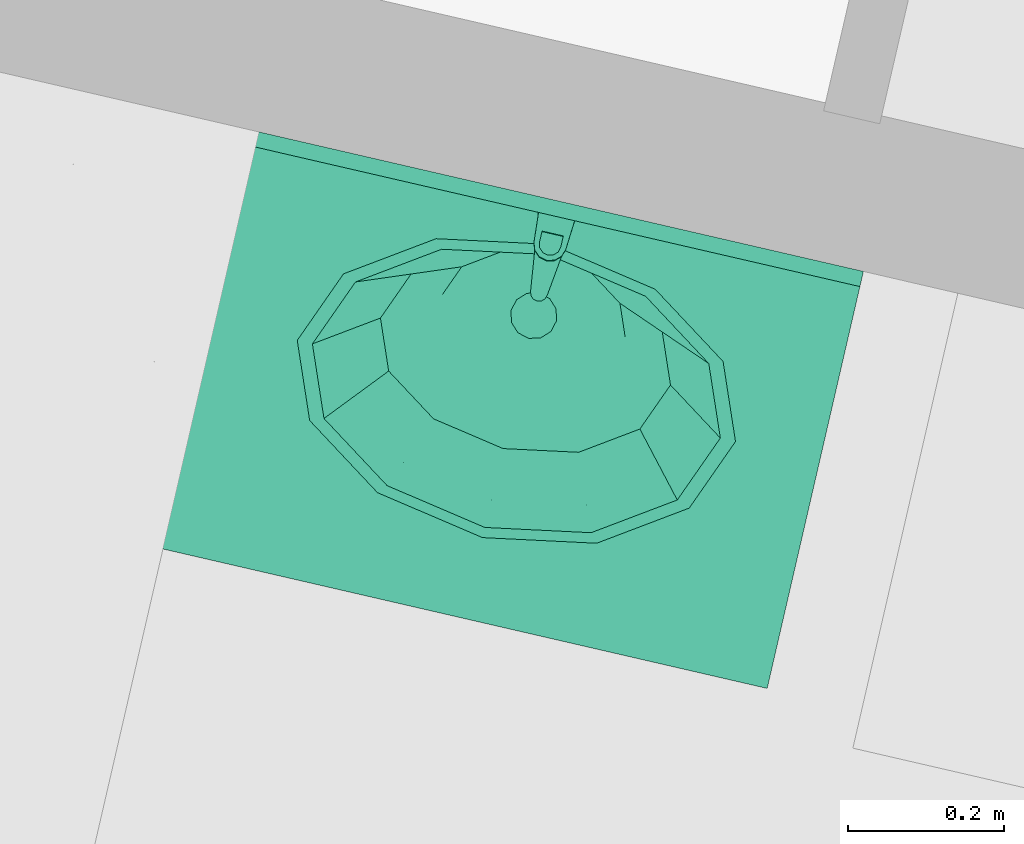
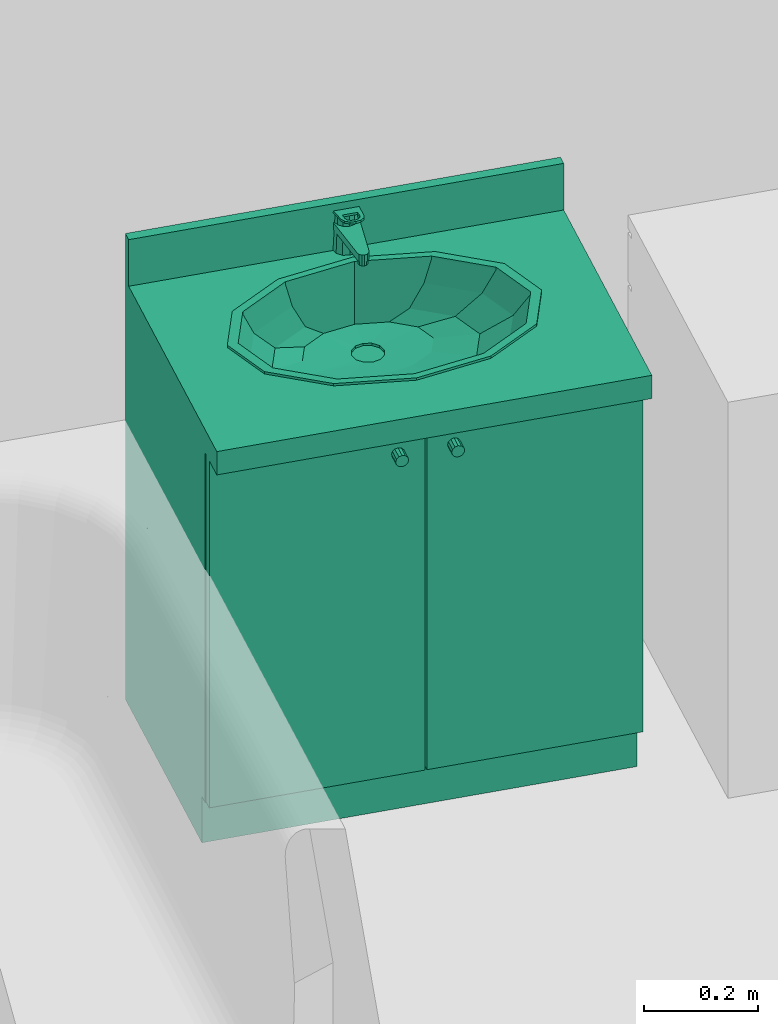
# One storey, part 82 of 90: 1 flow terminal.
"""IFC2X3 building model written with IfcOpenShell, lengths in metres."""

from ifc_helpers import new_model, entity, si_unit, converted_unit, derived_unit, money_unit, direction, frame, origin_with_axes, place, context, subcontext, project, spatial, open_shell, faceted_brep, surface_model, source, transform, mapped, type_object, element, save


model = new_model("IFC2X3")

# Units and contexts
model_context = context("Model", 3, precision=1e-05, world=origin_with_axes(), true_north=direction((0.0, 1.0)))
body_context = subcontext(model_context, "Body", "Model", "MODEL_VIEW")
ifc_project = project(units=[si_unit("LENGTHUNIT", "METRE"), si_unit("AREAUNIT", "SQUARE_METRE"), si_unit("VOLUMEUNIT", "CUBIC_METRE"), converted_unit("PLANEANGLEUNIT", "DEGREE", entity("IfcPlaneAngleMeasure", 0.0174532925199), si_unit("PLANEANGLEUNIT", "RADIAN"), dimensions=[0, 0, 0, 0, 0, 0, 0]), si_unit("SOLIDANGLEUNIT", "STERADIAN"), money_unit("EUR"), converted_unit("TIMEUNIT", "Year", entity("IfcTimeMeasure", 31556926.0), si_unit("TIMEUNIT", "SECOND"), dimensions=[0, 0, 1, 0, 0, 0, 0]), si_unit("MASSUNIT", "GRAM", prefix="KILO"), si_unit("THERMODYNAMICTEMPERATUREUNIT", "DEGREE_CELSIUS"), si_unit("LUMINOUSINTENSITYUNIT", "LUMEN"), si_unit("ENERGYUNIT", "JOULE", prefix="MEGA"), derived_unit("THERMALCONDUCTANCEUNIT", [(si_unit("POWERUNIT", "WATT"), 1), (si_unit("LENGTHUNIT", "METRE"), -1), (si_unit("THERMODYNAMICTEMPERATUREUNIT", "KELVIN"), -1)]), derived_unit("SPECIFICHEATCAPACITYUNIT", [(si_unit("ENERGYUNIT", "JOULE"), 1), (si_unit("MASSUNIT", "GRAM", prefix="KILO"), -1), (si_unit("THERMODYNAMICTEMPERATUREUNIT", "KELVIN"), -1)]), derived_unit("MASSDENSITYUNIT", [(si_unit("MASSUNIT", "GRAM", prefix="KILO"), 1), (si_unit("VOLUMEUNIT", "CUBIC_METRE"), -1)])], contexts=[model_context])

# Site, building, storey
site_placement = place(None, origin_with_axes())
site = spatial("IfcSite", under=ifc_project, at=site_placement, Name="Site", CompositionType="ELEMENT")
building_placement = place(site_placement, origin_with_axes())
building = spatial("IfcBuilding", under=site, at=building_placement, Name="Bâtiment", CompositionType="ELEMENT")
storey_placement = place(building_placement, frame((0.0, 0.0, 2.72), z_axis=(0.0, 0.0, 1.0), x_axis=(1.0, 0.0, 0.0)))
storey = spatial("IfcBuildingStorey", under=building, at=storey_placement, Name="R+1", CompositionType="ELEMENT", Elevation=2.72)

# Flow terminal
sanitary_terminal_type = type_object("IfcSanitaryTerminalType", Name="Lavabo sur meuble 23", PredefinedType="NOTDEFINED")
shared_shape = source(origin_with_axes(), body_context, "Body", "SurfaceModel", [
    faceted_brep([(0.0, 0.09, 0.0), (0.0, 0.09, 0.1), (-0.8, 0.09, 0.1), (-0.8, 0.09, 0.0), (0.0, 0.55, 0.0), (0.0, 0.55, 0.1), (-0.8, 0.55, 0.1), (-0.8, 0.55, 0.0)], [[[0, 1, 2, 3]], [[4, 5, 1, 0]], [[1, 5, 6, 2]], [[3, 2, 6, 7]], [[0, 3, 7, 4]], [[7, 6, 5, 4]]]),
    faceted_brep([(0.0, 0.07, 0.1), (0.0, 0.07, 0.12), (-0.02, 0.07, 0.12), (-0.02, 0.07, 0.1), (0.0, 0.55, 0.1), (0.0, 0.55, 0.12), (-0.02, 0.55, 0.12), (-0.78, 0.55, 0.12), (-0.8, 0.55, 0.12), (-0.8, 0.07, 0.12), (-0.78, 0.07, 0.12), (-0.78, 0.07, 0.1), (-0.8, 0.07, 0.1), (-0.8, 0.55, 0.1), (-0.78, 0.55, 0.1), (-0.02, 0.55, 0.1)], [[[0, 1, 2, 3]], [[4, 5, 1, 0]], [[1, 5, 6, 7, 8, 9, 10, 2]], [[3, 2, 10, 11]], [[0, 3, 11, 12, 13, 14, 15, 4]], [[15, 6, 5, 4]], [[14, 7, 6, 15]], [[13, 8, 7, 14]], [[12, 9, 8, 13]], [[11, 10, 9, 12]]]),
    faceted_brep([(0.0, 0.07, 0.12), (0.0, 0.07, 0.85), (-0.02, 0.07, 0.85), (-0.02, 0.07, 0.12), (0.0, 0.55, 0.12), (0.0, 0.55, 0.85), (-0.8, 0.55, 0.85), (-0.8, 0.07, 0.85), (-0.78, 0.07, 0.85), (-0.78, 0.53, 0.85), (-0.02, 0.53, 0.85), (-0.02, 0.53, 0.12), (-0.78, 0.53, 0.12), (-0.78, 0.07, 0.12), (-0.8, 0.07, 0.12), (-0.8, 0.55, 0.12)], [[[0, 1, 2, 3]], [[4, 5, 1, 0]], [[1, 5, 6, 7, 8, 9, 10, 2]], [[3, 2, 10, 11]], [[0, 3, 11, 12, 13, 14, 15, 4]], [[15, 6, 5, 4]], [[14, 7, 6, 15]], [[13, 8, 7, 14]], [[12, 9, 8, 13]], [[11, 10, 9, 12]]]),
    faceted_brep([(-0.78, 0.07, 0.323333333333), (-0.78, 0.07, 0.343333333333), (-0.78, 0.53, 0.343333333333), (-0.78, 0.53, 0.323333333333), (-0.02, 0.07, 0.323333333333), (-0.02, 0.07, 0.343333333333), (-0.02, 0.53, 0.343333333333), (-0.02, 0.53, 0.323333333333)], [[[0, 1, 2, 3]], [[4, 5, 1, 0]], [[1, 5, 6, 2]], [[3, 2, 6, 7]], [[0, 3, 7, 4]], [[7, 6, 5, 4]]]),
    faceted_brep([(-0.78, 0.07, 0.566666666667), (-0.78, 0.07, 0.586666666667), (-0.78, 0.53, 0.586666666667), (-0.78, 0.53, 0.566666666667), (-0.02, 0.07, 0.566666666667), (-0.02, 0.07, 0.586666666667), (-0.02, 0.53, 0.586666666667), (-0.02, 0.53, 0.566666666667)], [[[0, 1, 2, 3]], [[4, 5, 1, 0]], [[1, 5, 6, 2]], [[3, 2, 6, 7]], [[0, 3, 7, 4]], [[7, 6, 5, 4]]]),
    faceted_brep([(0.0, 0.55, 0.85), (0.0, 0.0, 0.85), (-0.8, 0.0, 0.85), (-0.8, 0.55, 0.85), (-0.535, 0.144115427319, 0.85), (-0.4, 0.12, 0.85), (-0.265, 0.144115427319, 0.85), (-0.166173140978, 0.21, 0.85), (-0.13, 0.3, 0.85), (-0.166173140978, 0.39, 0.85), (-0.265, 0.455884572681, 0.85), (-0.4, 0.48, 0.85), (-0.535, 0.455884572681, 0.85), (-0.633826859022, 0.39, 0.85), (-0.67, 0.3, 0.85), (-0.633826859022, 0.21, 0.85), (0.0, 0.55, 0.9), (0.0, 0.0, 0.9), (-0.8, 0.0, 0.9), (-0.8, 0.55, 0.9), (-0.4, 0.12, 0.9), (-0.535, 0.144115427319, 0.9), (-0.265, 0.144115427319, 0.9), (-0.166173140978, 0.21, 0.9), (-0.13, 0.3, 0.9), (-0.166173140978, 0.39, 0.9), (-0.265, 0.455884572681, 0.9), (-0.4, 0.48, 0.9), (-0.535, 0.455884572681, 0.9), (-0.633826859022, 0.39, 0.9), (-0.67, 0.3, 0.9), (-0.633826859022, 0.21, 0.9)], [[[0, 1, 2, 3], [4, 5, 6, 7, 8, 9, 10, 11, 12, 13, 14, 15]], [[1, 0, 16, 17]], [[2, 1, 17, 18]], [[3, 2, 18, 19]], [[0, 3, 19, 16]], [[20, 5, 4, 21]], [[22, 6, 5, 20]], [[23, 7, 6, 22]], [[24, 8, 7, 23]], [[25, 9, 8, 24]], [[26, 10, 9, 25]], [[27, 11, 10, 26]], [[28, 12, 11, 27]], [[29, 13, 12, 28]], [[30, 14, 13, 29]], [[31, 15, 14, 30]], [[21, 4, 15, 31]], [[18, 17, 16, 19], [28, 27, 26, 25, 24, 23, 22, 20, 21, 31, 30, 29]]]),
    faceted_brep([(0.0, 0.53, 0.9), (0.0, 0.53, 1.0), (-0.8, 0.53, 1.0), (-0.8, 0.53, 0.9), (0.0, 0.55, 0.9), (0.0, 0.55, 1.0), (-0.8, 0.55, 1.0), (-0.8, 0.55, 0.9)], [[[0, 1, 2, 3]], [[4, 5, 1, 0]], [[1, 5, 6, 2]], [[3, 2, 6, 7]], [[0, 3, 7, 4]], [[7, 6, 5, 4]]]),
    faceted_brep([(-0.689, 0.3, 0.905), (-0.650281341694, 0.396691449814, 0.905), (-0.650281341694, 0.396691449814, 0.9), (-0.689, 0.3, 0.9), (-0.650281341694, 0.203308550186, 0.905), (-0.5445, 0.132525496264, 0.905), (-0.4, 0.106617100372, 0.905), (-0.2555, 0.132525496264, 0.905), (-0.149718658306, 0.203308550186, 0.905), (-0.111, 0.3, 0.905), (-0.149718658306, 0.396691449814, 0.905), (-0.2555, 0.467474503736, 0.905), (-0.4, 0.493382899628, 0.905), (-0.5445, 0.467474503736, 0.905), (-0.669, 0.3, 0.905), (-0.632960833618, 0.39, 0.905), (-0.5345, 0.455884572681, 0.905), (-0.4, 0.48, 0.905), (-0.2655, 0.455884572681, 0.905), (-0.167039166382, 0.39, 0.905), (-0.131, 0.3, 0.905), (-0.167039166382, 0.21, 0.905), (-0.2655, 0.144115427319, 0.905), (-0.4, 0.12, 0.905), (-0.5345, 0.144115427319, 0.905), (-0.632960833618, 0.21, 0.905), (-0.5445, 0.467474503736, 0.9), (-0.4, 0.493382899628, 0.9), (-0.2555, 0.467474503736, 0.9), (-0.149718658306, 0.396691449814, 0.9), (-0.111, 0.3, 0.9), (-0.149718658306, 0.203308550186, 0.9), (-0.2555, 0.132525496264, 0.9), (-0.4, 0.106617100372, 0.9), (-0.5445, 0.132525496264, 0.9), (-0.650281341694, 0.203308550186, 0.9), (-0.669, 0.3, 0.9), (-0.632960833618, 0.21, 0.9), (-0.5345, 0.144115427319, 0.9), (-0.4, 0.12, 0.9), (-0.2655, 0.144115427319, 0.9), (-0.167039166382, 0.21, 0.9), (-0.131, 0.3, 0.9), (-0.167039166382, 0.39, 0.9), (-0.2655, 0.455884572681, 0.9), (-0.4, 0.48, 0.9), (-0.5345, 0.455884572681, 0.9), (-0.632960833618, 0.39, 0.9)], [[[0, 1, 2, 3]], [[0, 4, 5, 6, 7, 8, 9, 10, 11, 12, 13, 1], [14, 15, 16, 17, 18, 19, 20, 21, 22, 23, 24, 25]], [[1, 13, 26, 2]], [[3, 2, 26, 27, 28, 29, 30, 31, 32, 33, 34, 35], [36, 37, 38, 39, 40, 41, 42, 43, 44, 45, 46, 47]], [[4, 0, 3, 35]], [[5, 4, 35, 34]], [[6, 5, 34, 33]], [[7, 6, 33, 32]], [[8, 7, 32, 31]], [[9, 8, 31, 30]], [[10, 9, 30, 29]], [[11, 10, 29, 28]], [[12, 11, 28, 27]], [[13, 12, 27, 26]], [[15, 14, 36, 47]], [[16, 15, 47, 46]], [[17, 16, 46, 45]], [[18, 17, 45, 44]], [[19, 18, 44, 43]], [[20, 19, 43, 42]], [[21, 20, 42, 41]], [[22, 21, 41, 40]], [[23, 22, 40, 39]], [[24, 23, 39, 38]], [[25, 24, 38, 37]], [[14, 25, 37, 36]]]),
    surface_model("IfcShellBasedSurfaceModel", [(-0.4, 0.48, 0.9), (-0.5345, 0.455884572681, 0.9), (-0.52105, 0.458296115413, 0.848), (-0.4, 0.48, 0.848), (-0.632960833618, 0.39, 0.9), (-0.609664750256, 0.399, 0.848), (-0.2655, 0.455884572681, 0.9), (-0.27895, 0.458296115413, 0.848), (-0.669, 0.3, 0.9), (-0.6421, 0.318, 0.848), (-0.167039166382, 0.39, 0.9), (-0.190335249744, 0.399, 0.848), (-0.632960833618, 0.21, 0.9), (-0.609664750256, 0.237, 0.848), (-0.131, 0.3, 0.9), (-0.1579, 0.318, 0.848), (-0.5345, 0.144115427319, 0.9), (-0.52105, 0.177703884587, 0.848), (-0.167039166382, 0.21, 0.9), (-0.190335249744, 0.237, 0.848), (-0.4, 0.12, 0.9), (-0.4, 0.156, 0.848), (-0.2655, 0.144115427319, 0.9), (-0.27895, 0.177703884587, 0.848)], [open_shell([[[0, 1, 2, 3]], [[1, 4, 5, 2]], [[6, 0, 3, 7]], [[4, 8, 9, 5]], [[10, 6, 7, 11]], [[8, 12, 13, 9]], [[14, 10, 11, 15]], [[12, 16, 17, 13]], [[18, 14, 15, 19]], [[16, 20, 21, 17]], [[22, 18, 19, 23]], [[20, 22, 23, 21]]])]),
    surface_model("IfcShellBasedSurfaceModel", [(-0.4, 0.48, 0.848), (-0.52105, 0.458296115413, 0.848), (-0.4956295, 0.462853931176, 0.796), (-0.4, 0.48, 0.796), (-0.609664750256, 0.399, 0.848), (-0.565635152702, 0.41601, 0.796), (-0.27895, 0.458296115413, 0.848), (-0.3043705, 0.462853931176, 0.796), (-0.6421, 0.318, 0.848), (-0.591259, 0.35202, 0.796), (-0.190335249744, 0.399, 0.848), (-0.234364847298, 0.41601, 0.796), (-0.609664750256, 0.237, 0.848), (-0.565635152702, 0.28803, 0.796), (-0.1579, 0.318, 0.848), (-0.208741, 0.35202, 0.796), (-0.52105, 0.177703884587, 0.848), (-0.4956295, 0.241186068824, 0.796), (-0.190335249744, 0.237, 0.848), (-0.234364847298, 0.28803, 0.796), (-0.4, 0.156, 0.848), (-0.4, 0.22404, 0.796), (-0.27895, 0.177703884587, 0.848), (-0.3043705, 0.241186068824, 0.796)], [open_shell([[[0, 1, 2, 3]], [[1, 4, 5, 2]], [[6, 0, 3, 7]], [[4, 8, 9, 5]], [[10, 6, 7, 11]], [[8, 12, 13, 9]], [[14, 10, 11, 15]], [[12, 16, 17, 13]], [[18, 14, 15, 19]], [[16, 20, 21, 17]], [[22, 18, 19, 23]], [[20, 22, 23, 21]]])]),
    surface_model("IfcShellBasedSurfaceModel", [(-0.4, 0.48, 0.796), (-0.4956295, 0.462853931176, 0.796), (-0.460246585, 0.469197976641, 0.77), (-0.4, 0.48, 0.77), (-0.565635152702, 0.41601, 0.796), (-0.504350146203, 0.4396863, 0.77), (-0.3043705, 0.462853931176, 0.796), (-0.339753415, 0.469197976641, 0.77), (-0.591259, 0.35202, 0.796), (-0.52049317, 0.3993726, 0.77), (-0.234364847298, 0.41601, 0.796), (-0.295649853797, 0.4396863, 0.77), (-0.565635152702, 0.28803, 0.796), (-0.504350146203, 0.3590589, 0.77), (-0.208741, 0.35202, 0.796), (-0.27950683, 0.3993726, 0.77), (-0.4956295, 0.241186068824, 0.796), (-0.460246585, 0.329547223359, 0.77), (-0.234364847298, 0.28803, 0.796), (-0.295649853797, 0.3590589, 0.77), (-0.4, 0.22404, 0.796), (-0.4, 0.3187452, 0.77), (-0.3043705, 0.241186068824, 0.796), (-0.339753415, 0.329547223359, 0.77)], [open_shell([[[0, 1, 2, 3]], [[1, 4, 5, 2]], [[6, 0, 3, 7]], [[4, 8, 9, 5]], [[10, 6, 7, 11]], [[8, 12, 13, 9]], [[14, 10, 11, 15]], [[12, 16, 17, 13]], [[18, 14, 15, 19]], [[16, 20, 21, 17]], [[22, 18, 19, 23]], [[20, 22, 23, 21]]])]),
    surface_model("IfcShellBasedSurfaceModel", [(-0.4, 0.48, 0.77), (-0.460246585, 0.469197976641, 0.77), (-0.415, 0.425353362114, 0.763), (-0.425980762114, 0.4143726, 0.763), (-0.4, 0.4293726, 0.763), (-0.504350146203, 0.4396863, 0.77), (-0.339753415, 0.469197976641, 0.77), (-0.43, 0.3993726, 0.763), (-0.385, 0.425353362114, 0.763), (-0.52049317, 0.3993726, 0.77), (-0.295649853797, 0.4396863, 0.77), (-0.425980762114, 0.3843726, 0.763), (-0.374019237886, 0.4143726, 0.763), (-0.504350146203, 0.3590589, 0.77), (-0.27950683, 0.3993726, 0.77), (-0.415, 0.373391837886, 0.763), (-0.37, 0.3993726, 0.763), (-0.460246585, 0.329547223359, 0.77), (-0.295649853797, 0.3590589, 0.77), (-0.4, 0.3693726, 0.763), (-0.374019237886, 0.3843726, 0.763), (-0.4, 0.3187452, 0.77), (-0.339753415, 0.329547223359, 0.77), (-0.385, 0.373391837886, 0.763)], [open_shell([[[0, 1, 2]], [[1, 3, 2]], [[0, 2, 4]], [[1, 5, 3]], [[6, 0, 4]], [[5, 7, 3]], [[6, 4, 8]], [[5, 9, 7]], [[10, 6, 8]], [[9, 11, 7]], [[10, 8, 12]], [[9, 13, 11]], [[14, 10, 12]], [[13, 15, 11]], [[14, 12, 16]], [[13, 17, 15]], [[18, 14, 16]], [[17, 19, 15]], [[18, 16, 20]], [[17, 21, 19]], [[22, 18, 20]], [[21, 23, 19]], [[22, 20, 23]], [[21, 22, 23]]])]),
    surface_model("IfcShellBasedSurfaceModel", [(-0.43, 0.3993726, 0.763), (-0.425980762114, 0.4143726, 0.763), (-0.425980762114, 0.4143726, 0.758), (-0.43, 0.3993726, 0.758), (-0.415, 0.425353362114, 0.763), (-0.415, 0.425353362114, 0.758), (-0.4, 0.4293726, 0.758), (-0.385, 0.425353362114, 0.758), (-0.374019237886, 0.4143726, 0.758), (-0.37, 0.3993726, 0.758), (-0.374019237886, 0.3843726, 0.758), (-0.385, 0.373391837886, 0.758), (-0.4, 0.3693726, 0.758), (-0.415, 0.373391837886, 0.758), (-0.425980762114, 0.3843726, 0.758), (-0.425980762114, 0.3843726, 0.763), (-0.4, 0.4293726, 0.763), (-0.385, 0.425353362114, 0.763), (-0.374019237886, 0.4143726, 0.763), (-0.37, 0.3993726, 0.763), (-0.374019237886, 0.3843726, 0.763), (-0.385, 0.373391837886, 0.763), (-0.4, 0.3693726, 0.763), (-0.415, 0.373391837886, 0.763)], [open_shell([[[0, 1, 2, 3]], [[1, 4, 5, 2]], [[3, 2, 5, 6, 7, 8, 9, 10, 11, 12, 13, 14]], [[15, 0, 3, 14]], [[4, 16, 6, 5]], [[16, 17, 7, 6]], [[17, 18, 8, 7]], [[18, 19, 9, 8]], [[19, 20, 10, 9]], [[20, 21, 11, 10]], [[21, 22, 12, 11]], [[22, 23, 13, 12]], [[23, 15, 14, 13]]])]),
    faceted_brep([(-0.4125, 0.554150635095, 0.9), (-0.410587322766, 0.550837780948, 0.976507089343), (-0.4, 0.553701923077, 0.975961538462), (-0.4, 0.5575, 0.9), (-0.421650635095, 0.545, 0.9), (-0.418273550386, 0.543050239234, 0.977990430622), (-0.421, 0.5325, 0.98), (-0.418100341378, 0.522049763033, 0.981990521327), (-0.410414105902, 0.514462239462, 0.983435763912), (-0.4, 0.511698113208, 0.983962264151), (-0.389585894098, 0.514462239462, 0.983435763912), (-0.381899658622, 0.522049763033, 0.981990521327), (-0.379, 0.5325, 0.98), (-0.381726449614, 0.543050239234, 0.977990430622), (-0.389412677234, 0.550837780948, 0.976507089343), (-0.3875, 0.554150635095, 0.9), (-0.378349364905, 0.545, 0.9), (-0.375, 0.5325, 0.9), (-0.378349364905, 0.52, 0.9), (-0.3875, 0.510849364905, 0.9), (-0.4, 0.5075, 0.9), (-0.4125, 0.510849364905, 0.9), (-0.421650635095, 0.52, 0.9), (-0.425, 0.5325, 0.9)], [[[0, 1, 2, 3]], [[4, 5, 1, 0]], [[1, 5, 6, 7, 8, 9, 10, 11, 12, 13, 14, 2]], [[3, 2, 14, 15]], [[0, 3, 15, 16, 17, 18, 19, 20, 21, 22, 23, 4]], [[23, 6, 5, 4]], [[22, 7, 6, 23]], [[21, 8, 7, 22]], [[20, 9, 8, 21]], [[19, 10, 9, 20]], [[18, 11, 10, 19]], [[17, 12, 11, 18]], [[16, 13, 12, 17]], [[15, 14, 13, 16]]]),
    faceted_brep([(-0.409, 0.4295, 0.935), (-0.409, 0.4295, 0.945), (-0.407794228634, 0.434, 0.945), (-0.407794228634, 0.434, 0.935), (-0.407794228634, 0.425, 0.935), (-0.407794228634, 0.425, 0.945), (-0.4045, 0.421705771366, 0.945), (-0.4, 0.4205, 0.945), (-0.3955, 0.421705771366, 0.945), (-0.392205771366, 0.425, 0.945), (-0.391, 0.4295, 0.945), (-0.392205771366, 0.434, 0.945), (-0.3955, 0.437294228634, 0.945), (-0.4, 0.4385, 0.945), (-0.4045, 0.437294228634, 0.945), (-0.4045, 0.437294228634, 0.935), (-0.4, 0.4385, 0.935), (-0.3955, 0.437294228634, 0.935), (-0.392205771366, 0.434, 0.935), (-0.391, 0.4295, 0.935), (-0.392205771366, 0.425, 0.935), (-0.3955, 0.421705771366, 0.935), (-0.4, 0.4205, 0.935), (-0.4045, 0.421705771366, 0.935)], [[[0, 1, 2, 3]], [[4, 5, 1, 0]], [[1, 5, 6, 7, 8, 9, 10, 11, 12, 13, 14, 2]], [[3, 2, 14, 15]], [[0, 3, 15, 16, 17, 18, 19, 20, 21, 22, 23, 4]], [[23, 6, 5, 4]], [[22, 7, 6, 23]], [[21, 8, 7, 22]], [[20, 9, 8, 21]], [[19, 10, 9, 20]], [[18, 11, 10, 19]], [[17, 12, 11, 18]], [[16, 13, 12, 17]], [[15, 14, 13, 16]]]),
    faceted_brep([(-0.387128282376, 0.552756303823, 0.96), (-0.40000000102, 0.556499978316, 0.96), (-0.412871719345, 0.552756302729, 0.96), (-0.421727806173, 0.542693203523, 0.96), (-0.423805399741, 0.529450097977, 0.96), (-0.410912, 0.4281117, 0.96), (-0.409028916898, 0.423216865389, 0.96), (-0.405093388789, 0.419750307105, 0.96), (-0.400000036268, 0.41850003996, 0.96), (-0.394906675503, 0.419750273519, 0.96), (-0.390971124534, 0.423216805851, 0.96), (-0.389088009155, 0.428111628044, 0.96), (-0.3761946, 0.5294501, 0.96), (-0.378272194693, 0.54269320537, 0.96), (-0.411, 0.551552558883, 0.96), (-0.4, 0.5545, 0.96), (-0.389, 0.551552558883, 0.96), (-0.380947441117, 0.5435, 0.96), (-0.378, 0.5325, 0.96), (-0.380947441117, 0.5215, 0.96), (-0.389, 0.513447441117, 0.96), (-0.4, 0.5105, 0.96), (-0.411, 0.513447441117, 0.96), (-0.419052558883, 0.5215, 0.96), (-0.422, 0.5325, 0.96), (-0.419052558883, 0.5435, 0.96), (-0.387128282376, 0.552756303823, 0.945), (-0.40000000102, 0.556499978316, 0.945), (-0.412871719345, 0.552756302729, 0.945), (-0.421727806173, 0.542693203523, 0.945), (-0.423805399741, 0.529450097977, 0.945), (-0.410912, 0.4281117, 0.945), (-0.409028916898, 0.423216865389, 0.945), (-0.405093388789, 0.419750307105, 0.945), (-0.400000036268, 0.41850003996, 0.945), (-0.394906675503, 0.419750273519, 0.945), (-0.390971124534, 0.423216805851, 0.945), (-0.389088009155, 0.428111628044, 0.945), (-0.3761946, 0.5294501, 0.945), (-0.378272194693, 0.54269320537, 0.945), (-0.4, 0.55525, 0.945), (-0.411375, 0.552202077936, 0.945), (-0.388625, 0.552202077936, 0.945), (-0.380297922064, 0.543875, 0.945), (-0.37725, 0.5325, 0.945), (-0.380297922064, 0.521125, 0.945), (-0.388625, 0.512797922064, 0.945), (-0.4, 0.50975, 0.945), (-0.411375, 0.512797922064, 0.945), (-0.419702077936, 0.521125, 0.945), (-0.42275, 0.5325, 0.945), (-0.419702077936, 0.543875, 0.945)], [[[0, 1, 2, 3, 4, 5, 6, 7, 8, 9, 10, 11, 12, 13], [14, 15, 16, 17, 18, 19, 20, 21, 22, 23, 24, 25]], [[26, 27, 1, 0]], [[27, 28, 2, 1]], [[28, 29, 3, 2]], [[29, 30, 4, 3]], [[30, 31, 5, 4]], [[31, 32, 6, 5]], [[32, 33, 7, 6]], [[33, 34, 8, 7]], [[34, 35, 9, 8]], [[35, 36, 10, 9]], [[36, 37, 11, 10]], [[37, 38, 12, 11]], [[38, 39, 13, 12]], [[39, 26, 0, 13]], [[40, 15, 14, 41]], [[42, 16, 15, 40]], [[16, 42, 43, 17]], [[17, 43, 44, 18]], [[18, 44, 45, 19]], [[19, 45, 46, 20]], [[20, 46, 47, 21]], [[48, 22, 21, 47]], [[49, 23, 22, 48]], [[50, 24, 23, 49]], [[51, 25, 24, 50]], [[41, 14, 25, 51]], [[34, 33, 32, 31, 30, 29, 28, 27, 26, 39, 38, 37, 36, 35], [48, 47, 46, 45, 44, 43, 42, 40, 41, 51, 50, 49]]]),
    faceted_brep([(-0.423893, 0.53080743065, 0.980322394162), (-0.423893, 0.531555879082, 0.984251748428), (-0.421296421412, 0.544023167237, 0.981877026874), (-0.421296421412, 0.543274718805, 0.977947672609), (-0.420945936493, 0.490663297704, 0.987968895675), (-0.420945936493, 0.491411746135, 0.991898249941), (-0.417663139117, 0.48173408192, 0.993741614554), (-0.410061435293, 0.47478470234, 0.995065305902), (-0.399999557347, 0.472262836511, 0.995545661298), (-0.389937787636, 0.474785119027, 0.995065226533), (-0.382336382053, 0.481734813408, 0.993741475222), (-0.379054, 0.491412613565, 0.991898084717), (-0.376106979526, 0.531556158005, 0.984251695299), (-0.378703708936, 0.544023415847, 0.98187697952), (-0.38752831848, 0.553339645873, 0.980102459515), (-0.400000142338, 0.556780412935, 0.979447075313), (-0.41247192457, 0.553339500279, 0.980102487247), (-0.414, 0.507707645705, 0.988794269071), (-0.386, 0.507707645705, 0.988794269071), (-0.386, 0.492892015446, 0.991616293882), (-0.387875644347, 0.486015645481, 0.992926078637), (-0.393, 0.480981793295, 0.993884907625), (-0.4, 0.479139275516, 0.994235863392), (-0.407, 0.480981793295, 0.993884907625), (-0.412124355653, 0.486015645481, 0.992926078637), (-0.414, 0.492892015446, 0.991616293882), (-0.41247192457, 0.552591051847, 0.976173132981), (-0.400000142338, 0.556031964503, 0.975517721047), (-0.38752831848, 0.552591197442, 0.976173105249), (-0.378703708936, 0.543274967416, 0.977947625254), (-0.376106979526, 0.530807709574, 0.980322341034), (-0.379054, 0.490664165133, 0.987968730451), (-0.382336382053, 0.480986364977, 0.989812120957), (-0.389937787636, 0.474036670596, 0.991135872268), (-0.399999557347, 0.47151438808, 0.991616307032), (-0.410061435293, 0.474036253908, 0.991135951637), (-0.417663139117, 0.480985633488, 0.989812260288), (-0.414, 0.506959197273, 0.984864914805), (-0.414, 0.492143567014, 0.987686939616), (-0.412124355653, 0.485267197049, 0.988996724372), (-0.407, 0.480233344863, 0.989955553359), (-0.4, 0.478390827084, 0.990306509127), (-0.393, 0.480233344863, 0.989955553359), (-0.387875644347, 0.485267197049, 0.988996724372), (-0.386, 0.492143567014, 0.987686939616), (-0.386, 0.506959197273, 0.984864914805)], [[[0, 1, 2, 3]], [[4, 5, 1, 0]], [[1, 5, 6, 7, 8, 9, 10, 11, 12, 13, 14, 15, 16, 2], [17, 18, 19, 20, 21, 22, 23, 24, 25]], [[3, 2, 16, 26]], [[0, 3, 26, 27, 28, 29, 30, 31, 32, 33, 34, 35, 36, 4], [37, 38, 39, 40, 41, 42, 43, 44, 45]], [[36, 6, 5, 4]], [[35, 7, 6, 36]], [[34, 8, 7, 35]], [[33, 9, 8, 34]], [[32, 10, 9, 33]], [[31, 11, 10, 32]], [[30, 12, 11, 31]], [[29, 13, 12, 30]], [[28, 14, 13, 29]], [[27, 15, 14, 28]], [[26, 16, 15, 27]], [[45, 18, 17, 37]], [[44, 19, 18, 45]], [[43, 20, 19, 44]], [[42, 21, 20, 43]], [[41, 22, 21, 42]], [[40, 23, 22, 41]], [[39, 24, 23, 40]], [[38, 25, 24, 39]], [[37, 17, 25, 38]]]),
    faceted_brep([(-0.0015, 0.07, 0.1015), (-0.0015, 0.05, 0.1015), (-0.3985, 0.05, 0.1015), (-0.3985, 0.07, 0.1015), (-0.0015, 0.07, 0.8485), (-0.0015, 0.05, 0.8485), (-0.3985, 0.05, 0.8485), (-0.3985, 0.07, 0.8485)], [[[0, 1, 2, 3]], [[4, 5, 1, 0]], [[1, 5, 6, 2]], [[3, 2, 6, 7]], [[0, 3, 7, 4]], [[7, 6, 5, 4]]]),
    faceted_brep([(-0.358892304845, 0.05, 0.7855), (-0.3605, 0.05, 0.7915), (-0.358892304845, 0.05, 0.7975), (-0.3545, 0.05, 0.801892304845), (-0.3485, 0.05, 0.8035), (-0.3425, 0.05, 0.801892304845), (-0.338107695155, 0.05, 0.7975), (-0.3365, 0.05, 0.7915), (-0.338107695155, 0.05, 0.7855), (-0.3425, 0.05, 0.781107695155), (-0.3485, 0.05, 0.7795), (-0.3545, 0.05, 0.781107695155), (-0.358892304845, 0.025, 0.7855), (-0.3605, 0.025, 0.7915), (-0.358892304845, 0.025, 0.7975), (-0.3545, 0.025, 0.801892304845), (-0.3485, 0.025, 0.8035), (-0.3425, 0.025, 0.801892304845), (-0.338107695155, 0.025, 0.7975), (-0.3365, 0.025, 0.7915), (-0.338107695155, 0.025, 0.7855), (-0.3425, 0.025, 0.781107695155), (-0.3485, 0.025, 0.7795), (-0.3545, 0.025, 0.781107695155)], [[[0, 1, 2, 3, 4, 5, 6, 7, 8, 9, 10, 11]], [[0, 12, 13, 1]], [[1, 13, 14, 2]], [[2, 14, 15, 3]], [[3, 15, 16, 4]], [[4, 16, 17, 5]], [[5, 17, 18, 6]], [[6, 18, 19, 7]], [[7, 19, 20, 8]], [[8, 20, 21, 9]], [[9, 21, 22, 10]], [[10, 22, 23, 11]], [[11, 23, 12, 0]], [[12, 23, 22, 21, 20, 19, 18, 17, 16, 15, 14, 13]]]),
    faceted_brep([(-0.7985, 0.07, 0.1015), (-0.4015, 0.07, 0.1015), (-0.4015, 0.05, 0.1015), (-0.7985, 0.05, 0.1015), (-0.7985, 0.07, 0.8485), (-0.4015, 0.07, 0.8485), (-0.4015, 0.05, 0.8485), (-0.7985, 0.05, 0.8485)], [[[0, 1, 2, 3]], [[0, 4, 5, 1]], [[1, 5, 6, 2]], [[3, 2, 6, 7]], [[4, 0, 3, 7]], [[5, 4, 7, 6]]]),
    faceted_brep([(-0.441107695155, 0.05, 0.7855), (-0.4455, 0.05, 0.781107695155), (-0.4515, 0.05, 0.7795), (-0.4575, 0.05, 0.781107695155), (-0.461892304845, 0.05, 0.7855), (-0.4635, 0.05, 0.7915), (-0.461892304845, 0.05, 0.7975), (-0.4575, 0.05, 0.801892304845), (-0.4515, 0.05, 0.8035), (-0.4455, 0.05, 0.801892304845), (-0.441107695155, 0.05, 0.7975), (-0.4395, 0.05, 0.7915), (-0.441107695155, 0.025, 0.7855), (-0.4455, 0.025, 0.781107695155), (-0.4515, 0.025, 0.7795), (-0.4575, 0.025, 0.781107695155), (-0.461892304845, 0.025, 0.7855), (-0.4635, 0.025, 0.7915), (-0.461892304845, 0.025, 0.7975), (-0.4575, 0.025, 0.801892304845), (-0.4515, 0.025, 0.8035), (-0.4455, 0.025, 0.801892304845), (-0.441107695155, 0.025, 0.7975), (-0.4395, 0.025, 0.7915)], [[[0, 1, 2, 3, 4, 5, 6, 7, 8, 9, 10, 11]], [[1, 0, 12, 13]], [[2, 1, 13, 14]], [[3, 2, 14, 15]], [[4, 3, 15, 16]], [[5, 4, 16, 17]], [[6, 5, 17, 18]], [[7, 6, 18, 19]], [[8, 7, 19, 20]], [[9, 8, 20, 21]], [[10, 9, 21, 22]], [[11, 10, 22, 23]], [[0, 11, 23, 12]], [[12, 23, 22, 21, 20, 19, 18, 17, 16, 15, 14, 13]]]),
])
flow_terminal_placement = place(storey_placement, frame((-4.2774860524, 13.2706669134, 0.0), z_axis=(0.0, 0.0, 1.0), x_axis=(0.974387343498, -0.224876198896, 0.0)))
element("IfcFlowTerminal", 1, at=flow_terminal_placement, inside=storey, type_object=sanitary_terminal_type, Name="MOB-002", ObjectType="SANITARY_TERMINAL", context=body_context, shape_type="MappedRepresentation", body=[
    mapped(shared_shape, transform((0.0, 0.0, 0.0))),
])

save(model, "model.ifc")
